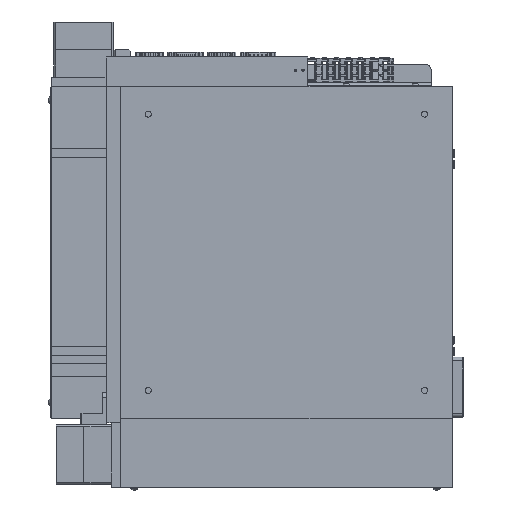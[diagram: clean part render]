
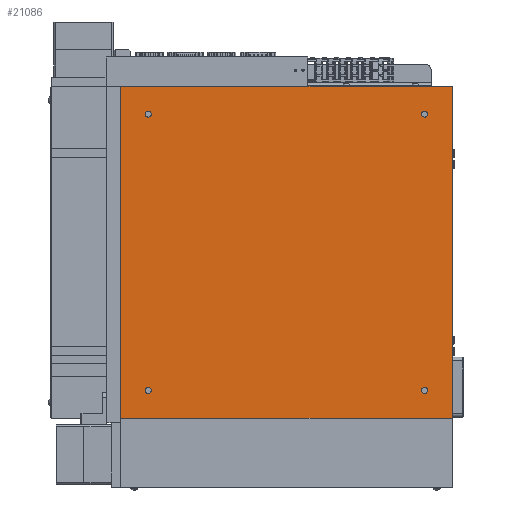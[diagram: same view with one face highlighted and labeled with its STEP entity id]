
A CAD part, front view. The second image highlights one B-rep face of the part: STEP entity #21086.
In plain terms, the highlighted planar face has unit normal (0, -1, 0).
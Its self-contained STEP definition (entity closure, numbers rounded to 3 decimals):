
#120 = CARTESIAN_POINT ( 'NONE',  ( 0., 0., 0. ) ) ;
#1099 = VECTOR ( 'NONE', #54865, 1000. ) ;
#1121 = CIRCLE ( 'NONE', #82968, 3.3 ) ;
#1323 = EDGE_CURVE ( 'NONE', #6906, #85120, #45477, .T. ) ;
#2793 = FACE_BOUND ( 'NONE', #76017, .T. ) ;
#3118 = VERTEX_POINT ( 'NONE', #40565 ) ;
#3405 = AXIS2_PLACEMENT_3D ( 'NONE', #120, #56424, #49271 ) ;
#5559 = CARTESIAN_POINT ( 'NONE',  ( -150., 0., -150. ) ) ;
#5672 = VERTEX_POINT ( 'NONE', #88939 ) ;
#6906 = VERTEX_POINT ( 'NONE', #33979 ) ;
#6928 = DIRECTION ( 'NONE',  ( 0., 0., 1. ) ) ;
#7370 = ORIENTED_EDGE ( 'NONE', *, *, #55829, .T. ) ;
#7865 = DIRECTION ( 'NONE',  ( 0., 1., 0. ) ) ;
#8516 = CIRCLE ( 'NONE', #52202, 3.3 ) ;
#8791 = ORIENTED_EDGE ( 'NONE', *, *, #1323, .T. ) ;
#9085 = ORIENTED_EDGE ( 'NONE', *, *, #26963, .T. ) ;
#9453 = FACE_BOUND ( 'NONE', #41856, .T. ) ;
#12079 = AXIS2_PLACEMENT_3D ( 'NONE', #85764, #15656, #36788 ) ;
#13473 = EDGE_CURVE ( 'NONE', #62009, #3118, #36053, .T. ) ;
#14118 = ORIENTED_EDGE ( 'NONE', *, *, #13473, .T. ) ;
#14245 = CIRCLE ( 'NONE', #59650, 3.3 ) ;
#14311 = CARTESIAN_POINT ( 'NONE',  ( -180., 0., -180. ) ) ;
#14840 = DIRECTION ( 'NONE',  ( 1., 0., 0. ) ) ;
#14901 = CARTESIAN_POINT ( 'NONE',  ( 150., 0., 153.3 ) ) ;
#15369 = EDGE_CURVE ( 'NONE', #46073, #35817, #20018, .T. ) ;
#15656 = DIRECTION ( 'NONE',  ( 0., 1., 0. ) ) ;
#15930 = VERTEX_POINT ( 'NONE', #14901 ) ;
#18666 = VERTEX_POINT ( 'NONE', #40057 ) ;
#18853 = VECTOR ( 'NONE', #57213, 1000. ) ;
#20018 = LINE ( 'NONE', #25973, #1099 ) ;
#20663 = EDGE_CURVE ( 'NONE', #18666, #46073, #73007, .T. ) ;
#21086 = ADVANCED_FACE ( 'NONE', ( #9453, #2793, #64001, #76293, #80798 ), #63260, .F. ) ;
#21210 = EDGE_LOOP ( 'NONE', ( #87566, #85756, #72750, #23781 ) ) ;
#23247 = CARTESIAN_POINT ( 'NONE',  ( -150., 0., -150. ) ) ;
#23781 = ORIENTED_EDGE ( 'NONE', *, *, #20663, .F. ) ;
#23821 = ORIENTED_EDGE ( 'NONE', *, *, #39582, .T. ) ;
#23843 = CARTESIAN_POINT ( 'NONE',  ( 150., 0., -150. ) ) ;
#24051 = CARTESIAN_POINT ( 'NONE',  ( 180., 0., -180. ) ) ;
#25826 = DIRECTION ( 'NONE',  ( 0., 0., 1. ) ) ;
#25973 = CARTESIAN_POINT ( 'NONE',  ( 180., 0., -180. ) ) ;
#26963 = EDGE_CURVE ( 'NONE', #15930, #83509, #8516, .T. ) ;
#28017 = EDGE_LOOP ( 'NONE', ( #88828, #14118 ) ) ;
#29091 = EDGE_LOOP ( 'NONE', ( #9085, #7370 ) ) ;
#30004 = CARTESIAN_POINT ( 'NONE',  ( 150., 0., -150. ) ) ;
#32063 = CARTESIAN_POINT ( 'NONE',  ( 180., 0., 180. ) ) ;
#32325 = VERTEX_POINT ( 'NONE', #74677 ) ;
#32687 = DIRECTION ( 'NONE',  ( 0., 1., 0. ) ) ;
#33100 = AXIS2_PLACEMENT_3D ( 'NONE', #5559, #32687, #25826 ) ;
#33979 = CARTESIAN_POINT ( 'NONE',  ( -150., 0., 153.3 ) ) ;
#35515 = EDGE_CURVE ( 'NONE', #85120, #6906, #65208, .T. ) ;
#35817 = VERTEX_POINT ( 'NONE', #24051 ) ;
#36053 = CIRCLE ( 'NONE', #43191, 3.3 ) ;
#36659 = DIRECTION ( 'NONE',  ( 0., 0., 1. ) ) ;
#36788 = DIRECTION ( 'NONE',  ( 0., 0., 1. ) ) ;
#39582 = EDGE_CURVE ( 'NONE', #32325, #65298, #14245, .T. ) ;
#40057 = CARTESIAN_POINT ( 'NONE',  ( -180., 0., 180. ) ) ;
#40565 = CARTESIAN_POINT ( 'NONE',  ( 150., 0., -146.7 ) ) ;
#41126 = DIRECTION ( 'NONE',  ( 0., 1., 0. ) ) ;
#41436 = VECTOR ( 'NONE', #88378, 1000. ) ;
#41856 = EDGE_LOOP ( 'NONE', ( #8791, #71311 ) ) ;
#42995 = DIRECTION ( 'NONE',  ( 0., 0., 1. ) ) ;
#43191 = AXIS2_PLACEMENT_3D ( 'NONE', #30004, #7865, #57654 ) ;
#45477 = CIRCLE ( 'NONE', #58939, 3.3 ) ;
#46073 = VERTEX_POINT ( 'NONE', #32063 ) ;
#46224 = CARTESIAN_POINT ( 'NONE',  ( 150., 0., 146.7 ) ) ;
#49271 = DIRECTION ( 'NONE',  ( 0., 0., 1. ) ) ;
#50610 = EDGE_CURVE ( 'NONE', #65298, #32325, #80940, .T. ) ;
#52202 = AXIS2_PLACEMENT_3D ( 'NONE', #83840, #41126, #42995 ) ;
#53773 = LINE ( 'NONE', #81202, #41436 ) ;
#53956 = AXIS2_PLACEMENT_3D ( 'NONE', #63246, #91647, #6928 ) ;
#54865 = DIRECTION ( 'NONE',  ( 0., 0., -1. ) ) ;
#55829 = EDGE_CURVE ( 'NONE', #83509, #15930, #70317, .T. ) ;
#56424 = DIRECTION ( 'NONE',  ( 0., 1., 0. ) ) ;
#57213 = DIRECTION ( 'NONE',  ( -1., 0., 0. ) ) ;
#57500 = CARTESIAN_POINT ( 'NONE',  ( -150., 0., 150. ) ) ;
#57654 = DIRECTION ( 'NONE',  ( 0., 0., 1. ) ) ;
#58939 = AXIS2_PLACEMENT_3D ( 'NONE', #57500, #78409, #36659 ) ;
#59650 = AXIS2_PLACEMENT_3D ( 'NONE', #23247, #87082, #80507 ) ;
#61772 = VECTOR ( 'NONE', #14840, 1000. ) ;
#62009 = VERTEX_POINT ( 'NONE', #71862 ) ;
#63246 = CARTESIAN_POINT ( 'NONE',  ( -150., 0., 150. ) ) ;
#63260 = PLANE ( 'NONE',  #3405 ) ;
#64001 = FACE_BOUND ( 'NONE', #28017, .T. ) ;
#64763 = CARTESIAN_POINT ( 'NONE',  ( -150., 0., -146.7 ) ) ;
#64903 = CARTESIAN_POINT ( 'NONE',  ( -180., 0., 180. ) ) ;
#65208 = CIRCLE ( 'NONE', #53956, 3.3 ) ;
#65298 = VERTEX_POINT ( 'NONE', #64763 ) ;
#70193 = CARTESIAN_POINT ( 'NONE',  ( -150., 0., 146.7 ) ) ;
#70317 = CIRCLE ( 'NONE', #12079, 3.3 ) ;
#71311 = ORIENTED_EDGE ( 'NONE', *, *, #35515, .T. ) ;
#71862 = CARTESIAN_POINT ( 'NONE',  ( 150., 0., -153.3 ) ) ;
#72278 = EDGE_CURVE ( 'NONE', #35817, #5672, #75657, .T. ) ;
#72750 = ORIENTED_EDGE ( 'NONE', *, *, #15369, .F. ) ;
#73007 = LINE ( 'NONE', #64903, #61772 ) ;
#73714 = ORIENTED_EDGE ( 'NONE', *, *, #50610, .T. ) ;
#74677 = CARTESIAN_POINT ( 'NONE',  ( -150., 0., -153.3 ) ) ;
#75657 = LINE ( 'NONE', #14311, #18853 ) ;
#76017 = EDGE_LOOP ( 'NONE', ( #73714, #23821 ) ) ;
#76293 = FACE_BOUND ( 'NONE', #29091, .T. ) ;
#78409 = DIRECTION ( 'NONE',  ( 0., 1., 0. ) ) ;
#78526 = EDGE_CURVE ( 'NONE', #3118, #62009, #1121, .T. ) ;
#80507 = DIRECTION ( 'NONE',  ( 0., 0., 1. ) ) ;
#80798 = FACE_OUTER_BOUND ( 'NONE', #21210, .T. ) ;
#80826 = DIRECTION ( 'NONE',  ( 0., 1., 0. ) ) ;
#80940 = CIRCLE ( 'NONE', #33100, 3.3 ) ;
#81202 = CARTESIAN_POINT ( 'NONE',  ( -180., 0., -180. ) ) ;
#81439 = DIRECTION ( 'NONE',  ( 0., 0., 1. ) ) ;
#82968 = AXIS2_PLACEMENT_3D ( 'NONE', #23843, #80826, #81439 ) ;
#83509 = VERTEX_POINT ( 'NONE', #46224 ) ;
#83840 = CARTESIAN_POINT ( 'NONE',  ( 150., 0., 150. ) ) ;
#85120 = VERTEX_POINT ( 'NONE', #70193 ) ;
#85756 = ORIENTED_EDGE ( 'NONE', *, *, #72278, .F. ) ;
#85764 = CARTESIAN_POINT ( 'NONE',  ( 150., 0., 150. ) ) ;
#87082 = DIRECTION ( 'NONE',  ( 0., 1., 0. ) ) ;
#87566 = ORIENTED_EDGE ( 'NONE', *, *, #91306, .F. ) ;
#88378 = DIRECTION ( 'NONE',  ( 0., 0., 1. ) ) ;
#88828 = ORIENTED_EDGE ( 'NONE', *, *, #78526, .T. ) ;
#88939 = CARTESIAN_POINT ( 'NONE',  ( -180., 0., -180. ) ) ;
#91306 = EDGE_CURVE ( 'NONE', #5672, #18666, #53773, .T. ) ;
#91647 = DIRECTION ( 'NONE',  ( 0., 1., 0. ) ) ;
